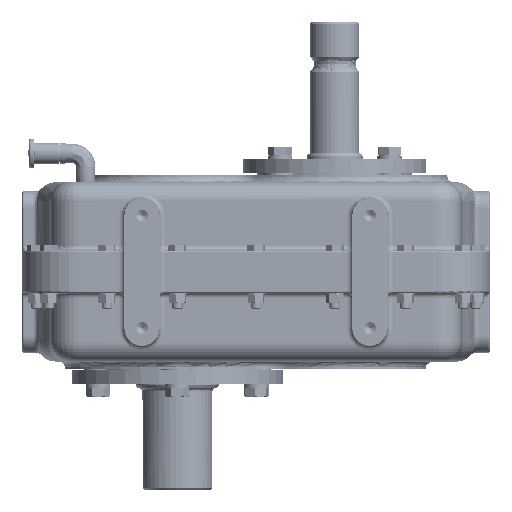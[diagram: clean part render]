
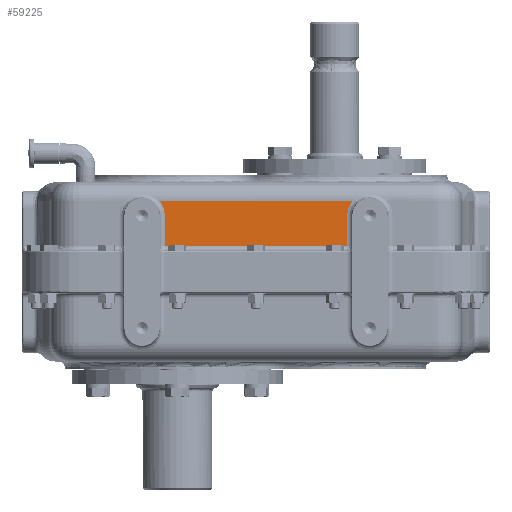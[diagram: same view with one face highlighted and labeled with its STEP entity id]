
A CAD part, left-side view. The second image highlights one B-rep face of the part: STEP entity #59225.
In plain terms, the highlighted planar face has unit normal (-1, 0, 0).
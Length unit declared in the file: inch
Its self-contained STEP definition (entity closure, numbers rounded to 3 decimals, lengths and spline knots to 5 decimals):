
#808 = CARTESIAN_POINT ( 'NONE',  ( -5., -0.51219, 2.32342 ) ) ;
#893 = CARTESIAN_POINT ( 'NONE',  ( -5., 6.15074, 2.41508 ) ) ;
#1002 = LINE ( 'NONE', #98837, #48457 ) ;
#1097 = CARTESIAN_POINT ( 'NONE',  ( -5., 6.0355, 3.188 ) ) ;
#2212 = CARTESIAN_POINT ( 'NONE',  ( -5., -3.5, 0.93 ) ) ;
#3808 = EDGE_CURVE ( 'NONE', #13126, #37740, #46904, .T. ) ;
#6959 = CARTESIAN_POINT ( 'NONE',  ( -5., 6.11658, 2.35511 ) ) ;
#7637 = VERTEX_POINT ( 'NONE', #9178 ) ;
#8035 = DIRECTION ( 'NONE',  ( 0., 0., 1. ) ) ;
#8764 = AXIS2_PLACEMENT_3D ( 'NONE', #70672, #86223, #33082 ) ;
#9178 = CARTESIAN_POINT ( 'NONE',  ( -5., -0.445, 2. ) ) ;
#10095 = VECTOR ( 'NONE', #35473, 39.37008 ) ;
#13126 = VERTEX_POINT ( 'NONE', #46182 ) ;
#13199 = CARTESIAN_POINT ( 'NONE',  ( -5., -0.62553, 2.508 ) ) ;
#14460 = CARTESIAN_POINT ( 'NONE',  ( -5., 6.14214, 2.40043 ) ) ;
#14854 = EDGE_CURVE ( 'NONE', #76222, #49789, #78915, .T. ) ;
#15117 = EDGE_CURVE ( 'NONE', #76222, #75031, #43488, .T. ) ;
#15470 = CARTESIAN_POINT ( 'NONE',  ( -5., 6.04799, 2.14139 ) ) ;
#16369 = CARTESIAN_POINT ( 'NONE',  ( -5., -0.57118, 2.4351 ) ) ;
#16459 = CARTESIAN_POINT ( 'NONE',  ( -5., 6.04904, 2.14716 ) ) ;
#22381 = CARTESIAN_POINT ( 'NONE',  ( -5., -0.45065, 2.09638 ) ) ;
#22994 = CARTESIAN_POINT ( 'NONE',  ( -5., 6.07423, 2.24777 ) ) ;
#23399 = CARTESIAN_POINT ( 'NONE',  ( -5., -0.445, 2. ) ) ;
#29903 = EDGE_CURVE ( 'NONE', #37740, #7637, #1002, .T. ) ;
#29969 = CARTESIAN_POINT ( 'NONE',  ( -5., -0.5297, 2.35977 ) ) ;
#31062 = CARTESIAN_POINT ( 'NONE',  ( -5., 6.15959, 2.42967 ) ) ;
#31933 = CARTESIAN_POINT ( 'NONE',  ( -5., -0.62553, 2.508 ) ) ;
#33082 = DIRECTION ( 'NONE',  ( 0., 0., 1. ) ) ;
#35473 = DIRECTION ( 'NONE',  ( 0., -1., 0. ) ) ;
#35633 = CARTESIAN_POINT ( 'NONE',  ( -5., -0.445, 0.93 ) ) ;
#37493 = CARTESIAN_POINT ( 'NONE',  ( -5., -0.45556, 2.13008 ) ) ;
#37740 = VERTEX_POINT ( 'NONE', #35633 ) ;
#37981 = CARTESIAN_POINT ( 'NONE',  ( -5., -0.44644, 2.05685 ) ) ;
#38962 = CARTESIAN_POINT ( 'NONE',  ( -5., -0.45467, 2.12454 ) ) ;
#39448 = CARTESIAN_POINT ( 'NONE',  ( -5., -0.445, 2.02279 ) ) ;
#42071 = ORIENTED_EDGE ( 'NONE', *, *, #29903, .T. ) ;
#42171 = ORIENTED_EDGE ( 'NONE', *, *, #47545, .T. ) ;
#43488 = LINE ( 'NONE', #43992, #10095 ) ;
#43992 = CARTESIAN_POINT ( 'NONE',  ( -5., 9.13771, 2.508 ) ) ;
#44904 = CARTESIAN_POINT ( 'NONE',  ( -5., 6.0355, 2. ) ) ;
#45096 = CARTESIAN_POINT ( 'NONE',  ( -5., 6.09746, 2.31314 ) ) ;
#45175 = VECTOR ( 'NONE', #79348, 39.37008 ) ;
#45521 = CARTESIAN_POINT ( 'NONE',  ( -5., -0.45299, 2.11328 ) ) ;
#46182 = CARTESIAN_POINT ( 'NONE',  ( -5., 6.0355, 0.93 ) ) ;
#46428 = ORIENTED_EDGE ( 'NONE', *, *, #15117, .F. ) ;
#46904 = LINE ( 'NONE', #2212, #58238 ) ;
#47088 = CARTESIAN_POINT ( 'NONE',  ( -5., 6.0355, 2.04559 ) ) ;
#47545 = EDGE_CURVE ( 'NONE', #49789, #13126, #71330, .T. ) ;
#48457 = VECTOR ( 'NONE', #8035, 39.37008 ) ;
#49789 = VERTEX_POINT ( 'NONE', #44904 ) ;
#51890 = B_SPLINE_CURVE_WITH_KNOTS ( 'NONE', 3,
 ( #23399, #39448, #37981, #22381, #45521, #38962, #37493, #84107, #92616, #68077, #808, #29969, #76569, #93123, #68547, #16369, #53002, #31933 ),
 .UNSPECIFIED., .F., .F.,
 ( 4, 1, 1, 2, 2, 2, 1, 1, 2, 2, 4 ),
 ( 0., 0.125, 0.1875, 0.21875, 0.25, 0.5, 0.625, 0.6875, 0.71875, 0.75, 1. ),
 .UNSPECIFIED. ) ;
#52879 = EDGE_CURVE ( 'NONE', #7637, #75031, #51890, .T. ) ;
#53002 = CARTESIAN_POINT ( 'NONE',  ( -5., -0.59676, 2.47263 ) ) ;
#54076 = CARTESIAN_POINT ( 'NONE',  ( -5., 6.21603, 2.508 ) ) ;
#56282 = ORIENTED_EDGE ( 'NONE', *, *, #52879, .T. ) ;
#58238 = VECTOR ( 'NONE', #84999, 39.37008 ) ;
#58561 = CARTESIAN_POINT ( 'NONE',  ( -5., 6.21603, 2.508 ) ) ;
#59225 = ADVANCED_FACE ( 'NONE', ( #78178 ), #62154, .T. ) ;
#60146 = CARTESIAN_POINT ( 'NONE',  ( -5., 6.05124, 2.1585 ) ) ;
#62094 = CARTESIAN_POINT ( 'NONE',  ( -5., 6.20165, 2.49032 ) ) ;
#62154 = PLANE ( 'NONE',  #8764 ) ;
#68077 = CARTESIAN_POINT ( 'NONE',  ( -5., -0.49922, 2.29135 ) ) ;
#68547 = CARTESIAN_POINT ( 'NONE',  ( -5., -0.546, 2.39043 ) ) ;
#70672 = CARTESIAN_POINT ( 'NONE',  ( -5., -3.5, 3.188 ) ) ;
#70729 = ORIENTED_EDGE ( 'NONE', *, *, #3808, .T. ) ;
#71330 = LINE ( 'NONE', #1097, #45175 ) ;
#75031 = VERTEX_POINT ( 'NONE', #13199 ) ;
#75671 = CARTESIAN_POINT ( 'NONE',  ( -5., 6.03934, 2.09085 ) ) ;
#76222 = VERTEX_POINT ( 'NONE', #58561 ) ;
#76569 = CARTESIAN_POINT ( 'NONE',  ( -5., -0.53771, 2.37511 ) ) ;
#76659 = CARTESIAN_POINT ( 'NONE',  ( -5., 6.0547, 2.17546 ) ) ;
#78178 = FACE_OUTER_BOUND ( 'NONE', #97822, .T. ) ;
#78915 = B_SPLINE_CURVE_WITH_KNOTS ( 'NONE', 3,
 ( #54076, #62094, #84679, #31062, #893, #91733, #14460, #6959, #45096, #22994, #98255, #76659, #60146, #16459, #15470, #75671, #47088, #91237 ),
 .UNSPECIFIED., .F., .F.,
 ( 4, 1, 1, 2, 2, 2, 1, 1, 2, 2, 4 ),
 ( 0., 0.125, 0.1875, 0.21875, 0.25, 0.5, 0.625, 0.6875, 0.71875, 0.75, 1. ),
 .UNSPECIFIED. ) ;
#79348 = DIRECTION ( 'NONE',  ( 0., 0., -1. ) ) ;
#84107 = CARTESIAN_POINT ( 'NONE',  ( -5., -0.46433, 2.18136 ) ) ;
#84679 = CARTESIAN_POINT ( 'NONE',  ( -5., 6.18127, 2.46299 ) ) ;
#84999 = DIRECTION ( 'NONE',  ( 0., -1., 0. ) ) ;
#86223 = DIRECTION ( 'NONE',  ( -1., 0., 0. ) ) ;
#91237 = CARTESIAN_POINT ( 'NONE',  ( -5., 6.0355, 2. ) ) ;
#91733 = CARTESIAN_POINT ( 'NONE',  ( -5., 6.14494, 2.40529 ) ) ;
#92473 = ORIENTED_EDGE ( 'NONE', *, *, #14854, .T. ) ;
#92616 = CARTESIAN_POINT ( 'NONE',  ( -5., -0.47599, 2.22598 ) ) ;
#93123 = CARTESIAN_POINT ( 'NONE',  ( -5., -0.54317, 2.38529 ) ) ;
#97822 = EDGE_LOOP ( 'NONE', ( #42071, #56282, #46428, #92473, #42171, #70729 ) ) ;
#98255 = CARTESIAN_POINT ( 'NONE',  ( -5., 6.06405, 2.21471 ) ) ;
#98837 = CARTESIAN_POINT ( 'NONE',  ( -5., -0.445, 3.188 ) ) ;
